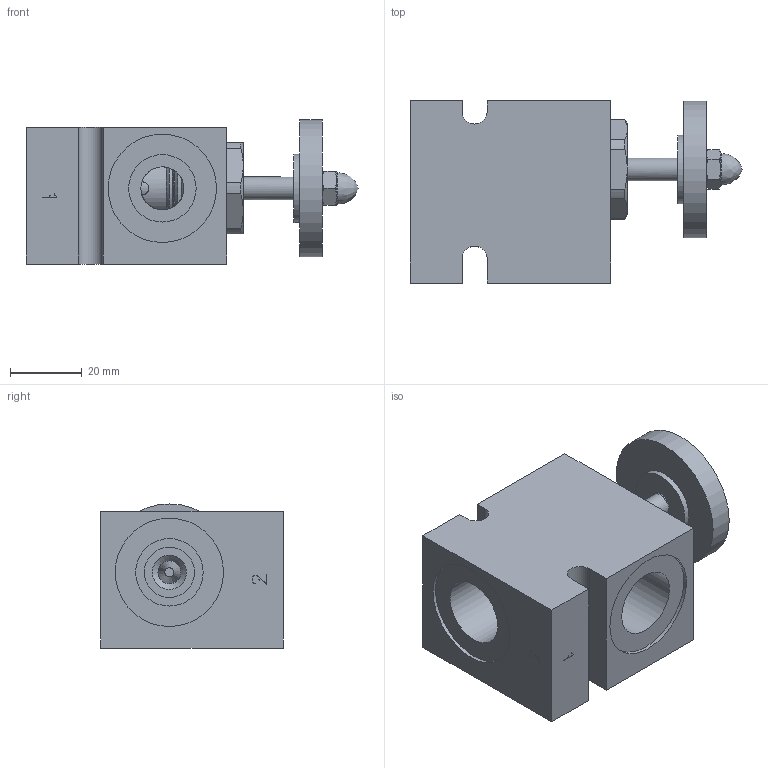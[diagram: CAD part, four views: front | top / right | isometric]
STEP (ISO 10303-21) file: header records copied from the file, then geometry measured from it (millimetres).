
FILE_DESCRIPTION( ( 'Unknown' ), '1' );
FILE_NAME( 'G:/Graphic Design/Graphic Design 2/Data Sheets/FLOW CONTROLS/2_STEP/Flow Restrictors, Adjustable (Needle Valves)/D-DENVA0K-C2.stp', 'Unknown', ( 'Unknown' ), ( 'Unknown' ), 'PSStep 16.0.42', 'Unknown', ' ' );
FILE_SCHEMA( ( 'AUTOMOTIVE_DESIGN { 1 0 10303 214 1 1 1 1 }' ) );
Length unit declared in the file: millimetre
Products named in the file (11): DENVA0K; DENVA0K-3D Full1; DENVA0K-3D Full2; DENVA0K-3D Full3; DENVA0K-3D Full4; DENVA0K-3D Full5; DENVA0K-3D Full6; DENVA0K-3D Full7; Assem1; B-DDEC2
Assembly tree (10 placements, depth 3):
  Assem1
    B-DDEC2
    DENVA0K
      DENVA0K-3D Full1
      DENVA0K-3D Full2
      DENVA0K-3D Full3
      DENVA0K-3D Full4
      DENVA0K-3D Full5
      DENVA0K-3D Full6
      DENVA0K-3D Full7
      DENVA0K-3D Full7
Bounding box: 92.51 x 50.8 x 40.15 mm (x, y, z)
Surface area: 28469.3 mm2 (no closed solid volume)
Topology: 0 solids, 231 shells, 231 faces, 987 edges, 893 vertices
Faces by surface type: plane 111, cone 66, cylinder 48, torus 5, bspline 1
Full cylindrical faces by diameter (mm): 0.2 x2, 3.581 x6, 3.81 x1, 4.75 x1, 5.397 x1, 6.274 x1, 6.325 x1, 6.35 x1, 7.214 x1, 8.433 x1, 12 x1, 12.992 x1, 13.043 x2, 14 x1, 15.684 x2, 15.761 x2, 15.9 x1, 17.043 x1, 17.323 x1, 18.8 x4, 19.05 x1, 19.622 x1, 20.262 x2, 30.17 x2, 30.175 x1, 38.1 x1
Entity records: 12570 total; most frequent: CARTESIAN_POINT 3908, DIRECTION 1352, VERTEX_POINT 851, ORIENTED_EDGE 847, EDGE_CURVE 847, AXIS2_PLACEMENT_3D 561, FACE_BOUND 354, EDGE_LOOP 350
